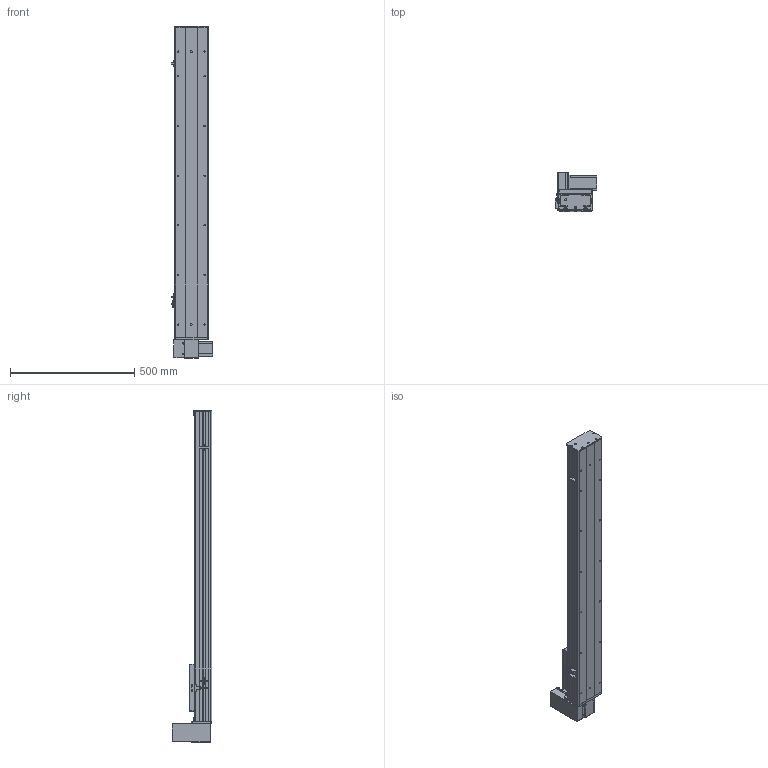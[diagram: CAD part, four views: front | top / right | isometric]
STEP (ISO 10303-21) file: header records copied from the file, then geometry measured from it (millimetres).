
FILE_DESCRIPTION (( 'STEP AP203' ), '1' );
FILE_NAME ('Y135CB-D90-S950-UR-P400W.STEP', '2020-02-18T04:03:38', ( '微软用户' ), ( '微软中国' ), 'SwSTEP 2.0', 'SolidWorks 2017', '' );
FILE_SCHEMA (( 'CONFIG_CONTROL_DESIGN' ));
Length unit declared in the file: millimetre
Products named in the file (18): 135CB---遴掛极.-; Y100-135俋离換覜ん--; 35CB---喘謫眊楊擘啣; Y135C-陔俋离換覜結え-; 0B-埴倛裔啣; 5C--俋欶; 0B-源倛裔啣; C-雄赽釱--; 0B-萇儂楊擘啣; Y10B--々湍喘謫眊--666; san松下电机400不带刹车----; Y10B-耜蚾蟀諉啣----; 5CB --掛极耜裔啣-; 00B-俋欶BM--; C-詩湍揤踡え-陔; Y135CB-耜裔; Y135CB-D90-S950-UR-P400W; 135CB--詩湍-CE
Assembly tree (21 placements, depth 2):
  Y135CB-D90-S950-UR-P400W
    Y135CB-耜裔
    135CB---遴掛极.-
    35CB---喘謫眊楊擘啣
    0B-埴倛裔啣
    0B-源倛裔啣
    0B-萇儂楊擘啣
    san松下电机400不带刹车----
    5CB --掛极耜裔啣-  x2
    C-詩湍揤踡え-陔  x2
    135CB--詩湍-CE
    Y100-135俋离換覜ん--  x3
    Y135C-陔俋离換覜結え-
    5C--俋欶
    C-雄赽釱--
    Y10B--々湍喘謫眊--666
    Y10B-耜蚾蟀諉啣----
    00B-俋欶BM--
Bounding box: 167.5 x 158.7 x 1338 mm (x, y, z)
Volume: 4256550.2 mm3; surface area: 1664119.8 mm2
Topology: 21 solids, 21 shells, 945 faces, 2527 edges, 1674 vertices
Faces by surface type: cylinder 473, plane 456, cone 16
Entity records: 29349 total; most frequent: DIRECTION 4875, CARTESIAN_POINT 4812, ORIENTED_EDGE 4530, EDGE_CURVE 2265, AXIS2_PLACEMENT_3D 1777, VERTEX_POINT 1502, VECTOR 1321, LINE 1321
